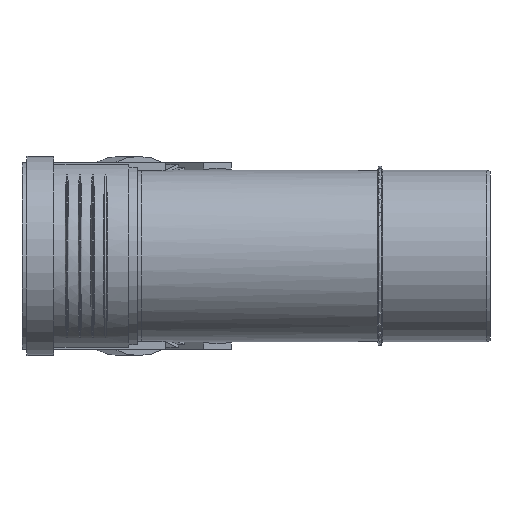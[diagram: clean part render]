
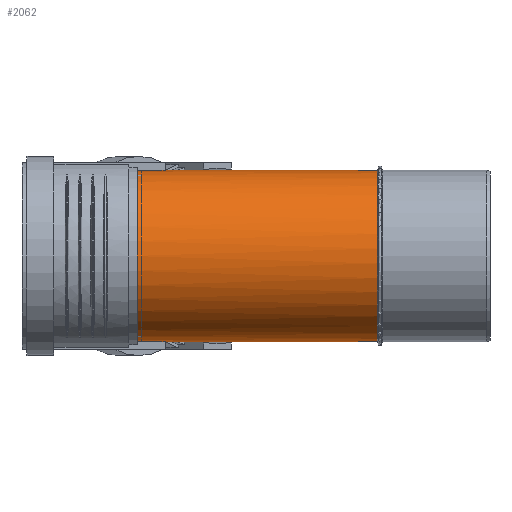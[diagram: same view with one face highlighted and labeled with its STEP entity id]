
A CAD part, left-side view. The second image highlights one B-rep face of the part: STEP entity #2062.
In plain terms, the highlighted cylindrical face has radius 55.1 mm (diameter 110.2 mm), a full revolution.
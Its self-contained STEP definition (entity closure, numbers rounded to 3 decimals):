
#172=ELLIPSE($,#2206,59.64,55.1);
#173=ELLIPSE($,#2207,143.983,55.1);
#174=ELLIPSE($,#2208,59.64,55.1);
#228=CYLINDRICAL_SURFACE($,#2205,55.1);
#532=FACE_BOUND($,#727,.T.);
#602=FACE_OUTER_BOUND($,#726,.T.);
#726=EDGE_LOOP($,(#1505,#1506,#1507,#1508));
#727=EDGE_LOOP($,(#1509));
#904=CIRCLE($,#2201,55.1);
#906=CIRCLE($,#2209,55.1);
#1005=VERTEX_POINT($,#3112);
#1006=VERTEX_POINT($,#3113);
#1008=VERTEX_POINT($,#3132);
#1009=VERTEX_POINT($,#3134);
#1010=VERTEX_POINT($,#3137);
#1217=EDGE_CURVE($,#1006,#1005,#904,.T.);
#1219=EDGE_CURVE($,#1005,#1008,#172,.T.);
#1220=EDGE_CURVE($,#1008,#1009,#173,.T.);
#1221=EDGE_CURVE($,#1009,#1006,#174,.T.);
#1222=EDGE_CURVE($,#1010,#1010,#906,.T.);
#1505=ORIENTED_EDGE($,*,*,#1217,.T.);
#1506=ORIENTED_EDGE($,*,*,#1219,.T.);
#1507=ORIENTED_EDGE($,*,*,#1220,.T.);
#1508=ORIENTED_EDGE($,*,*,#1221,.T.);
#1509=ORIENTED_EDGE($,*,*,#1222,.T.);
#2062=ADVANCED_FACE($,(#602,#532),#228,.T.);
#2201=AXIS2_PLACEMENT_3D($,#3126,#2454,#2455);
#2205=AXIS2_PLACEMENT_3D($,#3131,#2462,#2463);
#2206=AXIS2_PLACEMENT_3D($,#3133,#2464,#2465);
#2207=AXIS2_PLACEMENT_3D($,#3135,#2466,#2467);
#2208=AXIS2_PLACEMENT_3D($,#3136,#2468,#2469);
#2209=AXIS2_PLACEMENT_3D($,#3138,#2470,#2471);
#2454=DIRECTION('center_axis',(0.,1.,0.));
#2455=DIRECTION('ref_axis',(1.,0.,0.));
#2462=DIRECTION('center_axis',(0.,1.,0.));
#2463=DIRECTION('ref_axis',(1.,0.,0.));
#2464=DIRECTION('center_axis',(-0.383,-0.924,0.));
#2465=DIRECTION('ref_axis',(0.924,-0.383,0.));
#2466=DIRECTION('center_axis',(-0.924,0.383,0.));
#2467=DIRECTION('ref_axis',(-0.383,-0.924,0.));
#2468=DIRECTION('center_axis',(-0.383,-0.924,0.));
#2469=DIRECTION('ref_axis',(0.924,-0.383,0.));
#2470=DIRECTION('center_axis',(0.,-1.,0.));
#2471=DIRECTION('ref_axis',(1.,0.,0.));
#3112=CARTESIAN_POINT('',(54.851,72.4,5.233));
#3113=CARTESIAN_POINT('',(54.851,72.4,-5.233));
#3126=CARTESIAN_POINT('Origin',(0.,72.4,0.));
#3131=CARTESIAN_POINT('Origin',(0.,0.,0.));
#3132=CARTESIAN_POINT('',(0.,95.12,55.1));
#3133=CARTESIAN_POINT('Origin',(0.,95.12,0.));
#3134=CARTESIAN_POINT('',(0.,95.12,-55.1));
#3135=CARTESIAN_POINT('Origin',(0.,95.12,0.));
#3136=CARTESIAN_POINT('Origin',(0.,95.12,0.));
#3137=CARTESIAN_POINT('',(55.1,230.52,0.));
#3138=CARTESIAN_POINT('Origin',(0.,230.52,0.));
